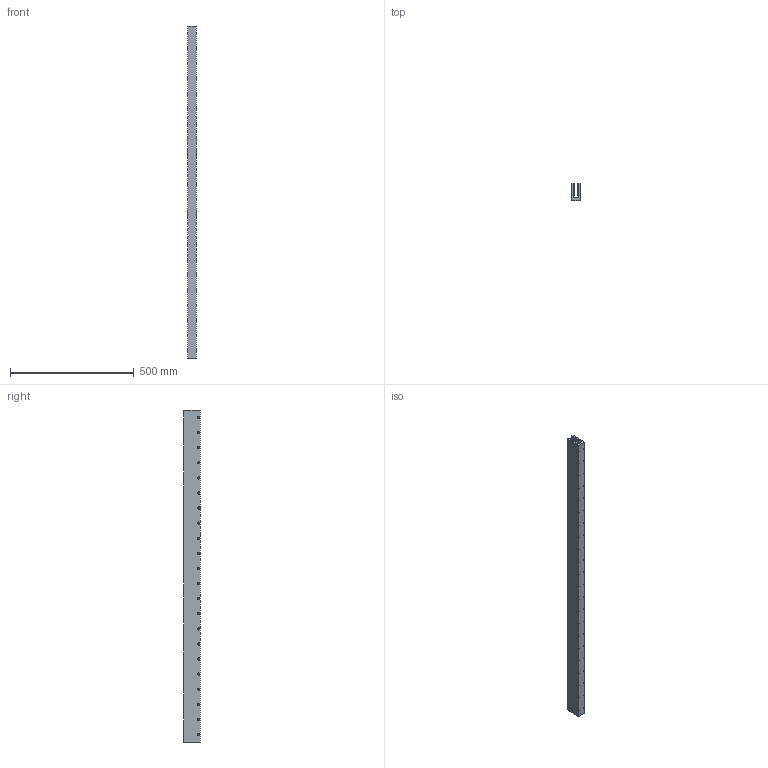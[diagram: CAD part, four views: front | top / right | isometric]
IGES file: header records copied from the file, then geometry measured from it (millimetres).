
Global section: file name: No Iges File Name specified; native system: Autodesk Inventor 2012; preprocessor: AutoDesk Inventor Iges Exporter R2012; author: je17857; date: 20120511.155849; units: inch
Bounding box: 34.29 x 67.31 x 1340.87 mm (x, y, z)
Volume: 1993907.2 mm3; surface area: 507704.5 mm2
Topology: 1 solids, 1 shells, 560 faces, 1278 edges, 852 vertices
Faces by surface type: plane 494, revolution 66
